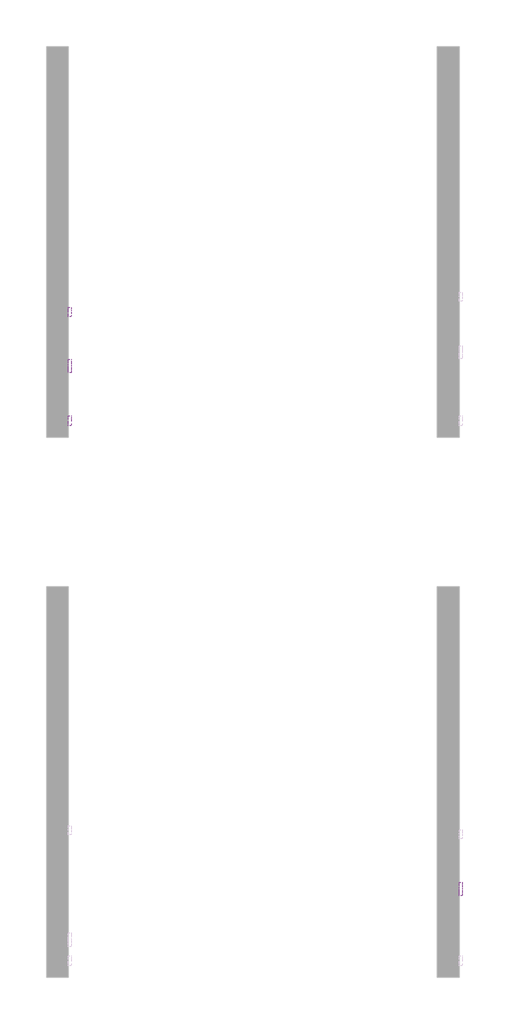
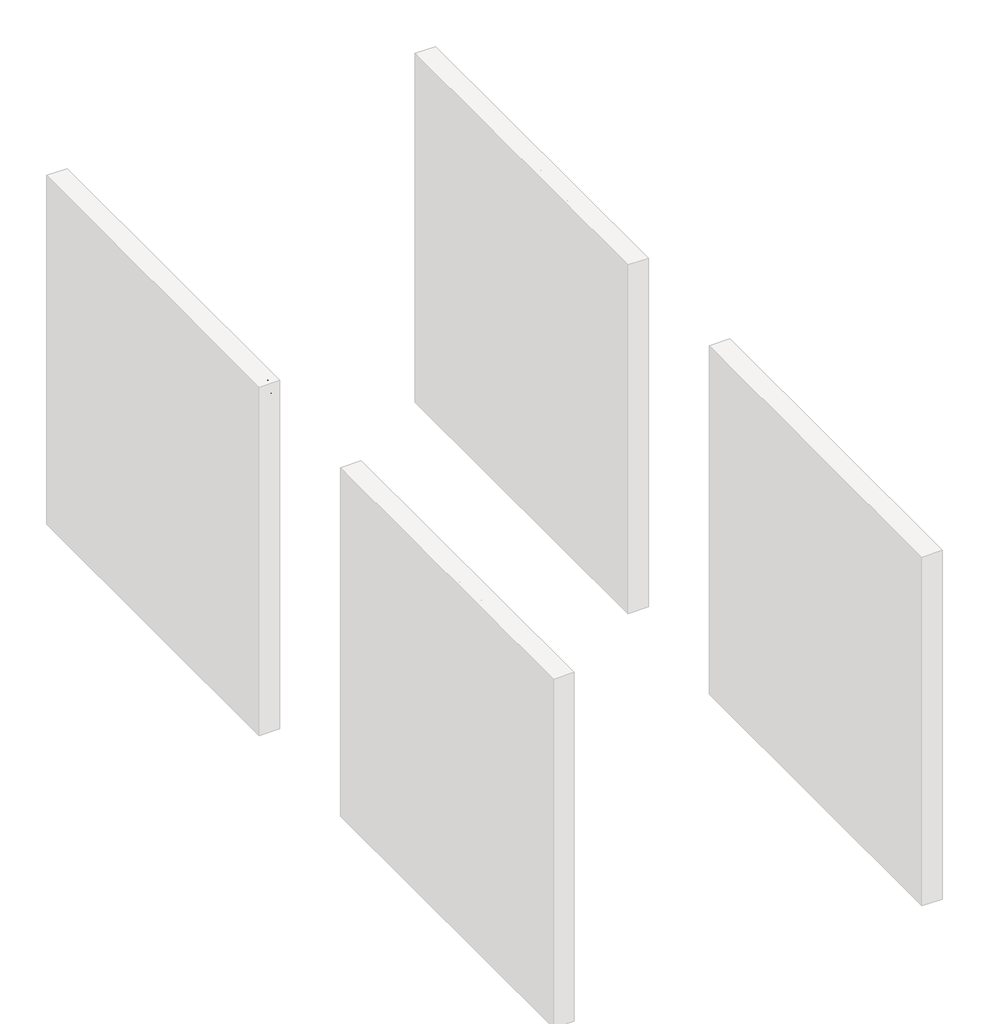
# One storey, part 4 of 17: 4 proxies.
"""IFC4 building model written with IfcOpenShell, lengths in millimetres."""

import ifcopenshell
import ifcopenshell.guid

model = None  # the IFC model being written
_history = None  # IfcOwnerHistory: only IFC2X3 demands one
_inside = {}  # id of a spatial element -> (the spatial element, [elements in it])
_under = {}  # id of a project, library or spatial element -> (it, [spatial elements below it])
_declared = {}  # id of a project -> (the project, [libraries it declares])
_typed = {}  # id of a type object -> (the type object, [elements of that type])
_made_of = {}  # id of a material, layer set ... -> (it, [elements and type objects made of it])


def new_model(schema):
    """Start an empty IFC model of exactly this schema.

    Asked for "IFC4X3", IfcOpenShell would pick the latest addendum, in which some entities
    have other attributes; the version numbers below select the first issue.
    IFC2X3 requires an IfcOwnerHistory on every rooted entity: one is made here for all.
    """
    global model, _history
    if schema == "IFC4X3":
        model = ifcopenshell.file(schema_version=(4, 3, 0, 0))
    else:
        model = ifcopenshell.file(schema=schema)
    _inside.clear()
    _under.clear()
    _declared.clear()
    _typed.clear()
    _made_of.clear()
    _history = None
    if model.schema == "IFC2X3":
        org = make("IfcOrganization", Name="unknown")
        user = make(
            "IfcPersonAndOrganization",
            ThePerson=make("IfcPerson", FamilyName="unknown"),
            TheOrganization=org,
        )
        app = make(
            "IfcApplication",
            ApplicationDeveloper=org,
            Version="unknown",
            ApplicationFullName="unknown",
            ApplicationIdentifier="unknown",
        )
        _history = make(
            "IfcOwnerHistory",
            OwningUser=user,
            OwningApplication=app,
            ChangeAction="ADDED",
            CreationDate=0,
        )
    return model


def make(cls, **values):
    """One entity of the class cls with the attributes given. An attribute that is None is left unset."""
    return model.create_entity(
        cls, **{name: value for name, value in values.items() if value is not None}
    )


def rooted(cls, **values):
    """An entity with a GlobalId (a new one), such as an element, a storey or a relation."""
    return make(cls, GlobalId=ifcopenshell.guid.new(), OwnerHistory=_history, **values)


def si_unit(unit_type, name, prefix=None):
    """IfcSIUnit, for example si_unit("LENGTHUNIT", "METRE", prefix="MILLI")."""
    return make("IfcSIUnit", UnitType=unit_type, Prefix=prefix, Name=name)


def assignment(units):
    """IfcUnitAssignment: the units of a project."""
    return None if units is None else make("IfcUnitAssignment", Units=units)


def point(xyz):
    """IfcCartesianPoint."""
    return None if xyz is None else make("IfcCartesianPoint", Coordinates=xyz)


def direction(xyz):
    """IfcDirection."""
    return None if xyz is None else make("IfcDirection", DirectionRatios=xyz)


def frame(location, z_axis=None, x_axis=None):
    """IfcAxis2Placement3D, a coordinate frame: its origin and axes. An axis left out is left unset."""
    return make(
        "IfcAxis2Placement3D",
        Location=point(location),
        Axis=direction(z_axis),
        RefDirection=direction(x_axis),
    )


def origin():
    """The frame at (0, 0, 0) with its axes left unset."""
    return frame((0.0, 0.0, 0.0))


def place(relative_to, where):
    """IfcLocalPlacement: puts the frame where relative to a parent placement (None: the world)."""
    return make(
        "IfcLocalPlacement", PlacementRelTo=relative_to, RelativePlacement=where
    )


def context(
    kind, dimensions, precision=None, world=None, true_north=None, identifier=None
):
    """IfcGeometricRepresentationContext, for example the 3D "Model" context."""
    return make(
        "IfcGeometricRepresentationContext",
        ContextIdentifier=identifier,
        ContextType=kind,
        CoordinateSpaceDimension=dimensions,
        Precision=precision,
        WorldCoordinateSystem=world,
        TrueNorth=true_north,
    )


def project(units=None, contexts=None):
    """IfcProject with its units and contexts."""
    return rooted(
        "IfcProject",
        Name="project",
        RepresentationContexts=contexts,
        UnitsInContext=assignment(units),
    )


def spatial(cls, under=None, at=None, **own):
    """A site, building, storey or space (cls), placed at a placement, below another one or the project."""
    s = rooted(cls, ObjectPlacement=at, **own)
    if under is not None:
        _under.setdefault(under.id(), (under, []))[1].append(s)
    return s


def polyline(points):
    """IfcPolyline through the points."""
    return make("IfcPolyline", Points=[point(p) for p in points])


def outline(outer, holes=None, kind="AREA"):
    """IfcArbitraryClosedProfileDef: a profile drawn as a closed curve; with holes, ...WithVoids."""
    if holes is None:
        return make("IfcArbitraryClosedProfileDef", ProfileType=kind, OuterCurve=outer)
    return make(
        "IfcArbitraryProfileDefWithVoids",
        ProfileType=kind,
        OuterCurve=outer,
        InnerCurves=holes,
    )


def extrude(swept, where, along, depth):
    """IfcExtrudedAreaSolid: the profile swept, set in the frame where, extruded along a direction by depth."""
    return make(
        "IfcExtrudedAreaSolid",
        SweptArea=swept,
        Position=where,
        ExtrudedDirection=direction(along),
        Depth=depth,
    )


def shape(context_of_items, identifier, shape_type, items):
    """IfcShapeRepresentation: the items that make up one representation, for example the "Body"."""
    return make(
        "IfcShapeRepresentation",
        ContextOfItems=context_of_items,
        RepresentationIdentifier=identifier,
        RepresentationType=shape_type,
        Items=items,
    )


def made_of(thing, what):
    """Note that an element or type object is made of a material, layer set ...; save() writes the relation."""
    if what is not None:
        _made_of.setdefault(what.id(), (what, []))[1].append(thing)
    return thing


def element(
    cls,
    number,
    at=None,
    inside=None,
    cuts=None,
    type_object=None,
    material=None,
    context=None,
    identifier="Body",
    shape_type=None,
    held_by="IfcProductDefinitionShape",
    body=None,
    shapes=None,
    **own,
):
    """One element of the class cls, such as IfcWall. Its Tag is "e" and its number.

    at: its placement. inside: the storey or other place that contains it. cuts: it is an
    opening in that element (IfcRelVoidsElement). A single representation is given by context,
    identifier, shape_type and body (its items); several are given by shapes. held_by: the class
    of the entity that holds the representations. save() writes the other relations.
    """
    e = rooted(cls, Tag="e%d" % number, ObjectPlacement=at, **own)
    if body is not None:
        shapes = [shape(context, identifier, shape_type, body)]
    if shapes is not None:
        e.Representation = make(held_by, Representations=shapes)
    if inside is not None:
        _inside.setdefault(inside.id(), (inside, []))[1].append(e)
    if cuts is not None:
        rooted(
            "IfcRelVoidsElement", RelatingBuildingElement=cuts, RelatedOpeningElement=e
        )
    if type_object is not None:
        _typed.setdefault(type_object.id(), (type_object, []))[1].append(e)
    return made_of(e, material)


def aggregate(whole, parts):
    """IfcRelAggregates: a whole, such as a stair, and the parts it consists of."""
    return rooted("IfcRelAggregates", RelatingObject=whole, RelatedObjects=parts)


def save(model, path):
    """Write the relations noted so far, then the file.

    IfcRelAggregates (storeys below a building ...), IfcRelContainedInSpatialStructure (elements
    in a storey), IfcRelDefinesByType, IfcRelAssociatesMaterial and IfcRelDeclares: one each for
    every whole, place, type object, material and project.
    """
    for whole, parts in _under.values():
        aggregate(whole, parts)
    for where, things in _inside.values():
        rooted(
            "IfcRelContainedInSpatialStructure",
            RelatedElements=things,
            RelatingStructure=where,
        )
    for kind, things in _typed.values():
        rooted("IfcRelDefinesByType", RelatedObjects=things, RelatingType=kind)
    for what, things in _made_of.values():
        rooted("IfcRelAssociatesMaterial", RelatedObjects=things, RelatingMaterial=what)
    for by, libraries in _declared.values():
        rooted("IfcRelDeclares", RelatingContext=by, RelatedDefinitions=libraries)
    model.write(path)


model = new_model("IFC4")

# Units and contexts
model_context = context("Model", 3, world=origin())
ifc_project = project(units=[si_unit("LENGTHUNIT", "METRE", prefix="MILLI")], contexts=[model_context])

# Site, building, storey
site = spatial("IfcSite", under=ifc_project)
building = spatial("IfcBuilding", under=site)
storey = spatial("IfcBuildingStorey", under=building, Name="PORTOBELLO - SHOWROOM", Elevation=0.0)

# Proxies
placement = place(None, origin())
element("IfcBuildingElementProxy", 1, Name="10mm Arial", ObjectType="10mm Arial", at=placement, inside=storey, context=model_context, shape_type="SweptSolid", body=[
    extrude(outline(polyline([(-7644.9270675, 2518.4745677), (-7644.9270675, 2618.9308778), (-7606.5937636, 2618.9308778), (-7587.8195191, 2615.9755591), (-7576.7340083, 2606.8888738), (-7572.7240946, 2594.0375295), (-7576.0963462, 2582.3020938), (-7586.2866775, 2573.4116123), (-7573.9135797, 2564.0428841), (-7569.5848349, 2548.4201621), (-7572.5401536, 2534.9188928), (-7579.8610053, 2525.30491), (-7590.7871006, 2520.203613), (-7606.8880692, 2518.4745677), (-7644.9270675, 2518.4745677)]), holes=[polyline([(-7632.3700287, 2578.1205018), (-7609.4387177, 2578.1205018), (-7596.0478131, 2579.1996223), (-7587.9911974, 2583.8471982), (-7585.2811334, 2592.0264412), (-7587.8072564, 2600.217947), (-7595.042269, 2605.0617266), (-7611.1800258, 2606.373839), (-7632.3700287, 2606.373839), (-7632.3700287, 2578.1205018)]), polyline([(-7632.3700287, 2531.0316064), (-7606.6182891, 2531.0316064), (-7597.2986119, 2531.5221158), (-7589.4136744, 2534.2567053), (-7584.1897501, 2539.8362488), (-7582.1418737, 2548.2975347), (-7584.5453694, 2558.0586703), (-7592.3322049, 2563.8834686), (-7607.8445624, 2565.563463), (-7632.3700287, 2565.563463), (-7632.3700287, 2531.0316064)])]), frame((-7622.2794626, 0.0, 0.0), z_axis=(1.0, 0.0, 0.0), x_axis=(0.0, 1.0, 0.0)), (0.0, 0.0, 1.0), 20.0),
    extrude(outline(polyline([(-7553.8885364, 2518.4745677), (-7553.8885364, 2592.2471704), (-7542.9011275, 2592.2471704), (-7542.9011275, 2581.3333379), (-7535.1020292, 2591.3887791), (-7527.25388, 2593.8168003), (-7514.6477903, 2589.9417766), (-7518.841645, 2578.6845875), (-7527.6708129, 2581.2597615), (-7534.7709354, 2578.7826894), (-7539.295884, 2571.9155588), (-7541.3314977, 2557.24933), (-7541.3314977, 2518.4745677), (-7553.8885364, 2518.4745677)])), frame((-7622.2794626, 0.0, 0.0), z_axis=(1.0, 0.0, 0.0), x_axis=(0.0, 1.0, 0.0)), (0.0, 0.0, 1.0), 20.0),
    extrude(outline(polyline([(-7459.7107457, 2527.8923467), (-7471.8876397, 2519.3820099), (-7485.339858, 2516.9049378), (-7495.8336919, 2518.3948599), (-7503.5745422, 2522.8646261), (-7508.3478111, 2529.6520489), (-7509.9389008, 2538.0949407), (-7507.5354051, 2548.0277546), (-7501.2200975, 2555.2382417), (-7492.4277178, 2559.3585201), (-7481.5629362, 2561.246981), (-7459.7843221, 2565.563463), (-7459.7107457, 2568.3593662), (-7463.1688364, 2577.6299925), (-7477.0502504, 2581.2597615), (-7489.754442, 2578.8440031), (-7495.8122321, 2570.2723526), (-7508.3692709, 2571.8419824), (-7502.9368801, 2584.1047156), (-7491.9985221, 2591.2906772), (-7475.4315696, 2593.8168003), (-7460.2135177, 2591.5849828), (-7451.6173418, 2585.9809138), (-7447.7668436, 2577.4583142), (-7447.1537069, 2566.4709053), (-7447.1537069, 2550.8481832), (-7446.5160448, 2529.0327809), (-7444.0144472, 2518.4745677), (-7456.571486, 2518.4745677), (-7459.7107457, 2527.8923467)]), holes=[polyline([(-7459.7107457, 2553.0064243), (-7479.9687809, 2549.1559261), (-7490.7722488, 2547.1203124), (-7495.6650793, 2543.8093744), (-7497.381862, 2538.9778575), (-7493.6417284, 2532.1843033), (-7482.6665822, 2529.4619766), (-7469.9623906, 2532.4663462), (-7461.7708849, 2539.738147), (-7459.7843221, 2549.4502317), (-7459.7107457, 2553.0064243)])]), frame((-7622.2794626, 0.0, 0.0), z_axis=(1.0, 0.0, 0.0), x_axis=(0.0, 1.0, 0.0)), (0.0, 0.0, 1.0), 20.0),
    extrude(outline(polyline([(-7429.8877786, 2518.4745677), (-7429.8877786, 2592.2471704), (-7417.3307398, 2592.2471704), (-7417.3307398, 2581.9464746), (-7407.7290198, 2590.8492188), (-7394.620158, 2593.8168003), (-7382.762095, 2591.4255673), (-7374.6686911, 2585.1470479), (-7370.904032, 2575.9132098), (-7370.2418445, 2563.773104), (-7370.2418445, 2518.4745677), (-7382.7988832, 2518.4745677), (-7382.7988832, 2562.0808468), (-7384.2458857, 2573.1908831), (-7389.3594455, 2579.0647323), (-7397.9801469, 2581.2597615), (-7411.6040434, 2576.3301428), (-7415.8990657, 2569.1871007), (-7417.3307398, 2557.6172119), (-7417.3307398, 2518.4745677), (-7429.8877786, 2518.4745677)])), frame((-7622.2794626, 0.0, 0.0), z_axis=(1.0, 0.0, 0.0), x_axis=(0.0, 1.0, 0.0)), (0.0, 0.0, 1.0), 20.0),
    extrude(outline(polyline([(-7305.8870208, 2545.158275), (-7293.329982, 2543.5886452), (-7296.8309923, 2532.420361), (-7303.4099487, 2523.9805349), (-7312.447583, 2518.6738371), (-7323.3246273, 2516.9049378), (-7336.6818094, 2519.3728129), (-7347.1265924, 2526.776438), (-7353.86803, 2538.7908508), (-7356.1151758, 2555.0910889), (-7352.2769404, 2575.949998), (-7340.5782929, 2589.3531654), (-7323.4963056, 2593.8168003), (-7312.8859757, 2592.2839586), (-7304.40323, 2587.6854337), (-7298.3178487, 2580.2664801), (-7294.8996118, 2570.2723526), (-7307.4566506, 2568.7027227), (-7313.2814489, 2578.1082391), (-7323.3982037, 2581.2597615), (-7331.5130674, 2579.7085258), (-7337.954068, 2575.0548185), (-7342.1571198, 2567.0472538), (-7343.5581371, 2555.4344454), (-7342.1877766, 2543.6652873), (-7338.0766953, 2535.6301314), (-7331.7521907, 2531.0040153), (-7323.7415603, 2529.4619766), (-7311.9080227, 2533.3124748), (-7305.8870208, 2545.158275)])), frame((-7622.2794626, 0.0, 0.0), z_axis=(1.0, 0.0, 0.0), x_axis=(0.0, 1.0, 0.0)), (0.0, 0.0, 1.0), 20.0),
    extrude(outline(polyline([(-7285.4818328, 2555.360869), (-7282.7656374, 2573.1479635), (-7274.6170512, 2585.64982), (-7264.5493472, 2591.7750552), (-7252.4950805, 2593.8168003), (-7239.3034453, 2591.3305311), (-7228.7666918, 2583.8717237), (-7221.8597074, 2572.0289891), (-7219.5573792, 2556.3909386), (-7223.6286066, 2534.0482388), (-7235.4866696, 2521.4053609), (-7252.4950805, 2516.9049378), (-7265.8461313, 2519.3820099), (-7276.370622, 2526.8132262), (-7283.2040301, 2538.9042811), (-7285.4818328, 2555.360869)]), holes=[polyline([(-7272.924794, 2555.3853945), (-7271.4716601, 2544.0209065), (-7267.1122585, 2535.924437), (-7260.5516962, 2531.0775917), (-7252.4950805, 2529.4619766), (-7244.475253, 2531.0867887), (-7237.9269535, 2535.9612252), (-7233.5675519, 2544.1649937), (-7232.114418, 2555.777802), (-7233.5767489, 2566.8111961), (-7237.9637417, 2574.7973011), (-7244.5212383, 2579.6441464), (-7252.4950805, 2581.2597615), (-7260.5516962, 2579.6502778), (-7267.1122585, 2574.8218266), (-7271.4716601, 2566.7437511), (-7272.924794, 2555.3853945)])]), frame((-7622.2794626, 0.0, 0.0), z_axis=(1.0, 0.0, 0.0), x_axis=(0.0, 1.0, 0.0)), (0.0, 0.0, 1.0), 20.0),
    extrude(outline(polyline([(-7117.5314392, 2557.7153138), (-7117.5314392, 2570.2723526), (-7076.7210632, 2570.2723526), (-7076.7210632, 2532.7238636), (-7096.8687338, 2520.8780634), (-7118.1691014, 2516.9049378), (-7132.2559161, 2518.4837647), (-7144.9876988, 2523.2202454), (-7155.5643062, 2530.948833), (-7163.1855948, 2541.5039806), (-7167.7933168, 2554.1652526), (-7169.3292242, 2568.2122134), (-7167.7994482, 2582.3603418), (-7163.2101203, 2595.5213202), (-7155.7513128, 2606.5608457), (-7145.6130982, 2614.3446156), (-7133.2645259, 2618.9615346), (-7119.1746455, 2620.5005077), (-7099.5297469, 2616.9320523), (-7085.7586976, 2606.9992384), (-7078.1680657, 2590.383235), (-7089.7440859, 2587.121348), (-7095.4707823, 2598.7341563), (-7105.2564433, 2605.4296086), (-7119.3708492, 2607.9434689), (-7135.4472924, 2605.2334049), (-7146.3856504, 2598.1210196), (-7152.8481108, 2588.4457231), (-7156.7721854, 2568.7272482), (-7152.0510331, 2546.8382695), (-7138.316772, 2533.7416705), (-7119.1746455, 2529.4619766), (-7101.9945563, 2532.6870754), (-7089.278102, 2539.5664687), (-7089.278102, 2557.7153138), (-7117.5314392, 2557.7153138)])), frame((-7622.2794626, 0.0, 0.0), z_axis=(1.0, 0.0, 0.0), x_axis=(0.0, 1.0, 0.0)), (0.0, 0.0, 1.0), 20.0),
    extrude(outline(polyline([(-7057.8855051, 2518.4745677), (-7057.8855051, 2592.2471704), (-7046.8980962, 2592.2471704), (-7046.8980962, 2581.3333379), (-7039.0989979, 2591.3887791), (-7031.2508486, 2593.8168003), (-7018.6447589, 2589.9417766), (-7022.8386137, 2578.6845875), (-7031.6677816, 2581.2597615), (-7038.7679041, 2578.7826894), (-7043.2928526, 2571.9155588), (-7045.3284663, 2557.24933), (-7045.3284663, 2518.4745677), (-7057.8855051, 2518.4745677)])), frame((-7622.2794626, 0.0, 0.0), z_axis=(1.0, 0.0, 0.0), x_axis=(0.0, 1.0, 0.0)), (0.0, 0.0, 1.0), 20.0),
    extrude(outline(polyline([(-6963.7077143, 2527.8923467), (-6975.8846084, 2519.3820099), (-6989.3368266, 2516.9049378), (-6999.8306606, 2518.3948599), (-7007.5715109, 2522.8646261), (-7012.3447798, 2529.6520489), (-7013.9358694, 2538.0949407), (-7011.5323737, 2548.0277546), (-7005.2170661, 2555.2382417), (-6996.4246864, 2559.3585201), (-6985.5599048, 2561.246981), (-6963.7812907, 2565.563463), (-6963.7077143, 2568.3593662), (-6967.1658051, 2577.6299925), (-6981.047219, 2581.2597615), (-6993.7514106, 2578.8440031), (-6999.8092008, 2570.2723526), (-7012.3662395, 2571.8419824), (-7006.9338487, 2584.1047156), (-6995.9954908, 2591.2906772), (-6979.4285382, 2593.8168003), (-6964.2104864, 2591.5849828), (-6955.6143104, 2585.9809138), (-6951.7638122, 2577.4583142), (-6951.1506755, 2566.4709053), (-6951.1506755, 2550.8481832), (-6950.5130134, 2529.0327809), (-6948.0114159, 2518.4745677), (-6960.5684546, 2518.4745677), (-6963.7077143, 2527.8923467)]), holes=[polyline([(-6963.7077143, 2553.0064243), (-6983.9657495, 2549.1559261), (-6994.7692174, 2547.1203124), (-6999.662048, 2543.8093744), (-7001.3788306, 2538.9778575), (-6997.638697, 2532.1843033), (-6986.6635508, 2529.4619766), (-6973.9593592, 2532.4663462), (-6965.7678535, 2539.738147), (-6963.7812907, 2549.4502317), (-6963.7077143, 2553.0064243)])]), frame((-7622.2794626, 0.0, 0.0), z_axis=(1.0, 0.0, 0.0), x_axis=(0.0, 1.0, 0.0)), (0.0, 0.0, 1.0), 20.0),
    extrude(outline(polyline([(-6889.9351115, 2518.4745677), (-6889.9351115, 2579.6901317), (-6900.9225205, 2579.6901317), (-6900.9225205, 2592.2471704), (-6889.9351115, 2592.2471704), (-6889.9351115, 2599.6783867), (-6888.6107364, 2610.1507609), (-6882.1850642, 2617.6310281), (-6869.5299235, 2620.5005077), (-6858.0765308, 2619.1270815), (-6859.9159407, 2607.3548577), (-6867.1509533, 2607.9434689), (-6875.0604162, 2605.8588043), (-6877.3780728, 2598.0842314), (-6877.3780728, 2592.2471704), (-6863.2514042, 2592.2471704), (-6863.2514042, 2579.6901317), (-6877.3780728, 2579.6901317), (-6877.3780728, 2518.4745677), (-6889.9351115, 2518.4745677)])), frame((-7622.2794626, 0.0, 0.0), z_axis=(1.0, 0.0, 0.0), x_axis=(0.0, 1.0, 0.0)), (0.0, 0.0, 1.0), 20.0),
    extrude(outline(polyline([(-6930.7454875, 2518.4745677), (-6930.7454875, 2579.6901317), (-6941.7328965, 2579.6901317), (-6941.7328965, 2592.2471704), (-6930.7454875, 2592.2471704), (-6930.7454875, 2599.6783867), (-6929.4211124, 2610.1507609), (-6922.9954402, 2617.6310281), (-6910.3402995, 2620.5005077), (-6898.8869068, 2619.1270815), (-6900.7263167, 2607.3548577), (-6907.9613293, 2607.9434689), (-6915.8707922, 2605.8588043), (-6918.1884488, 2598.0842314), (-6918.1884488, 2592.2471704), (-6904.0617802, 2592.2471704), (-6904.0617802, 2579.6901317), (-6918.1884488, 2579.6901317), (-6918.1884488, 2518.4745677), (-6930.7454875, 2518.4745677)])), frame((-7622.2794626, 0.0, 0.0), z_axis=(1.0, 0.0, 0.0), x_axis=(0.0, 1.0, 0.0)), (0.0, 0.0, 1.0), 20.0),
    extrude(outline(polyline([(-7602.2794626, -6839.7069565), (-7602.2794626, -6852.2639952), (-7622.2794626, -6852.2639952), (-7622.2794626, -6839.7069565), (-7602.2794626, -6839.7069565)])), frame((0.0, 0.0, 2606.373839), z_axis=(0.0, 0.0, 1.0), x_axis=(1.0, 0.0, 0.0)), (0.0, 0.0, 1.0), 12.5570388),
    extrude(outline(polyline([(-7602.2794626, -6839.7069565), (-7602.2794626, -6852.2639952), (-7622.2794626, -6852.2639952), (-7622.2794626, -6839.7069565), (-7602.2794626, -6839.7069565)])), frame((0.0, 0.0, 2518.4745677), z_axis=(0.0, 0.0, 1.0), x_axis=(1.0, 0.0, 0.0)), (0.0, 0.0, 1.0), 73.7726028),
])
element("IfcBuildingElementProxy", 2, Name="10mm Arial", ObjectType="10mm Arial", at=placement, inside=storey, context=model_context, shape_type="SweptSolid", body=[
    extrude(outline(polyline([(-3919.6359571, 2553.0064243), (-3907.0789183, 2553.0064243), (-3903.0322163, 2540.4371228), (-3893.1484534, 2532.4908717), (-3878.0898171, 2529.4619766), (-3864.9686926, 2531.7551077), (-3856.4951439, 2538.0581525), (-3853.7115035, 2546.4826502), (-3855.7961682, 2554.3185367), (-3864.3310304, 2560.0207077), (-3882.6147656, 2564.8154363), (-3902.2964523, 2571.0081166), (-3912.9772929, 2580.3523193), (-3916.4966974, 2592.8357816), (-3912.1434271, 2607.0482894), (-3899.4269728, 2617.0792051), (-3880.8121438, 2620.5005077), (-3860.9465161, 2616.9197896), (-3847.7027643, 2606.3983645), (-3842.7240946, 2590.6775406), (-3855.2811334, 2590.6775406), (-3857.5865272, 2598.1700706), (-3862.3935186, 2603.5779359), (-3880.3216345, 2607.9434689), (-3898.2988013, 2603.6269868), (-3903.9396586, 2593.2036636), (-3899.9420076, 2584.4971231), (-3879.4387177, 2577.4828397), (-3857.2186452, 2571.1797948), (-3845.0662766, 2561.0017263), (-3841.1544648, 2546.8014813), (-3845.6548878, 2531.7796332), (-3858.6043341, 2520.8167497), (-3877.5993077, 2516.9049378), (-3900.0278467, 2521.123318), (-3914.215829, 2533.8275096), (-3919.6359571, 2553.0064243)])), frame((-10322.2794626, 0.0, 0.0), z_axis=(1.0, 0.0, 0.0), x_axis=(0.0, 1.0, 0.0)), (0.0, 0.0, 1.0), 20.0),
    extrude(outline(polyline([(-3776.7996411, 2527.8923467), (-3788.9765351, 2519.3820099), (-3802.4287534, 2516.9049378), (-3812.9225873, 2518.3948599), (-3820.6634376, 2522.8646261), (-3825.4367065, 2529.6520489), (-3827.0277961, 2538.0949407), (-3824.6243004, 2548.0277546), (-3818.3089928, 2555.2382417), (-3809.5166132, 2559.3585201), (-3798.6518316, 2561.246981), (-3776.8732175, 2565.563463), (-3776.7996411, 2568.3593662), (-3780.2577318, 2577.6299925), (-3794.1391458, 2581.2597615), (-3806.8433373, 2578.8440031), (-3812.9011275, 2570.2723526), (-3825.4581663, 2571.8419824), (-3820.0257755, 2584.1047156), (-3809.0874175, 2591.2906772), (-3792.520465, 2593.8168003), (-3777.3024131, 2591.5849828), (-3768.7062372, 2585.9809138), (-3764.855739, 2577.4583142), (-3764.2426023, 2566.4709053), (-3764.2426023, 2550.8481832), (-3763.6049402, 2529.0327809), (-3761.1033426, 2518.4745677), (-3773.6603814, 2518.4745677), (-3776.7996411, 2527.8923467)]), holes=[polyline([(-3776.7996411, 2553.0064243), (-3797.0576763, 2549.1559261), (-3807.8611442, 2547.1203124), (-3812.7539747, 2543.8093744), (-3814.4707574, 2538.9778575), (-3810.7306237, 2532.1843033), (-3799.7554776, 2529.4619766), (-3787.051286, 2532.4663462), (-3778.8597802, 2539.738147), (-3776.8732175, 2549.4502317), (-3776.7996411, 2553.0064243)])]), frame((-10322.2794626, 0.0, 0.0), z_axis=(1.0, 0.0, 0.0), x_axis=(0.0, 1.0, 0.0)), (0.0, 0.0, 1.0), 20.0),
    extrude(outline(polyline([(-3750.1159337, 2512.1960483), (-3737.5588949, 2510.6264184), (-3733.4876675, 2504.0045425), (-3721.2985107, 2501.2086394), (-3708.4471664, 2504.3724245), (-3702.3157998, 2513.2506433), (-3701.4574084, 2527.8923467), (-3710.2988391, 2520.8290124), (-3721.0777815, 2518.4745677), (-3734.0241621, 2521.2152885), (-3743.6779988, 2529.4374511), (-3749.6836723, 2541.4917178), (-3751.6855635, 2555.728751), (-3748.0925827, 2575.1897086), (-3737.693785, 2588.9607579), (-3721.6909182, 2593.8168003), (-3710.4889114, 2591.069948), (-3701.4574084, 2582.8293914), (-3701.4574084, 2592.2471704), (-3688.9003697, 2592.2471704), (-3688.9003697, 2528.5545343), (-3692.333935, 2504.1639581), (-3703.2109793, 2492.8209299), (-3721.5437654, 2488.6516006), (-3733.2270844, 2490.1200629), (-3742.4272, 2494.5254498), (-3748.3286403, 2501.880024), (-3750.1159337, 2512.1960483)]), holes=[polyline([(-3739.1285248, 2556.5871424), (-3737.7888212, 2545.0693702), (-3733.7697104, 2537.1507103), (-3727.7272486, 2532.5613824), (-3720.3174921, 2531.0316064), (-3712.9629178, 2532.5521853), (-3706.8897992, 2537.1139221), (-3702.8155061, 2544.9314145), (-3701.4574084, 2556.2192604), (-3702.85536, 2567.1055017), (-3707.0492148, 2574.9444539), (-3713.2112382, 2579.6809346), (-3720.5136958, 2581.2597615), (-3727.684329, 2579.7054601), (-3733.696134, 2575.0425558), (-3737.7704271, 2567.3200996), (-3739.1285248, 2556.5871424)])]), frame((-10322.2794626, 0.0, 0.0), z_axis=(1.0, 0.0, 0.0), x_axis=(0.0, 1.0, 0.0)), (0.0, 0.0, 1.0), 20.0),
    extrude(outline(polyline([(-3618.4141794, 2540.4493855), (-3606.1023953, 2538.8797557), (-3610.538439, 2529.602998), (-3617.6171017, 2522.6684224), (-3627.1789679, 2518.345809), (-3639.0646221, 2516.9049378), (-3653.798296, 2519.391207), (-3665.1351928, 2526.8500144), (-3672.364074, 2538.7969822), (-3674.7737011, 2554.7477324), (-3672.3395485, 2571.2349771), (-3665.0370909, 2583.5651553), (-3653.8534783, 2591.253889), (-3639.7758606, 2593.8168003), (-3626.1366356, 2591.2600204), (-3615.2381315, 2583.5896808), (-3608.0920238, 2571.2840281), (-3605.7099878, 2554.8213088), (-3605.7835642, 2551.4367944), (-3662.2166623, 2551.4367944), (-3660.0430928, 2542.0374095), (-3654.9939125, 2535.1273593), (-3647.7067833, 2530.8783223), (-3638.8193674, 2529.4619766), (-3626.5075833, 2532.0862015), (-3618.4141794, 2540.4493855)]), holes=[polyline([(-3662.2166623, 2563.9938332), (-3618.2670266, 2563.9938332), (-3623.2947472, 2575.3736496), (-3630.6155989, 2579.7882335), (-3639.8249115, 2581.2597615), (-3655.2882181, 2576.5631347), (-3660.1534574, 2571.0724959), (-3662.2166623, 2563.9938332)])]), frame((-10322.2794626, 0.0, 0.0), z_axis=(1.0, 0.0, 0.0), x_axis=(0.0, 1.0, 0.0)), (0.0, 0.0, 1.0), 20.0),
    extrude(outline(polyline([(-3505.2536777, 2557.7153138), (-3505.2536777, 2570.2723526), (-3464.4433017, 2570.2723526), (-3464.4433017, 2532.7238636), (-3484.5909723, 2520.8780634), (-3505.8913398, 2516.9049378), (-3519.9781545, 2518.4837647), (-3532.7099373, 2523.2202454), (-3543.2865446, 2530.948833), (-3550.9078333, 2541.5039806), (-3555.5155553, 2554.1652526), (-3557.0514626, 2568.2122134), (-3555.5216866, 2582.3603418), (-3550.9323588, 2595.5213202), (-3543.4735513, 2606.5608457), (-3533.3353367, 2614.3446156), (-3520.9867643, 2618.9615346), (-3506.8968839, 2620.5005077), (-3487.2519854, 2616.9320523), (-3473.480936, 2606.9992384), (-3465.8903042, 2590.383235), (-3477.4663243, 2587.121348), (-3483.1930207, 2598.7341563), (-3492.9786818, 2605.4296086), (-3507.0930877, 2607.9434689), (-3523.1695309, 2605.2334049), (-3534.1078888, 2598.1210196), (-3540.5703492, 2588.4457231), (-3544.4944238, 2568.7272482), (-3539.7732716, 2546.8382695), (-3526.0390104, 2533.7416705), (-3506.8968839, 2529.4619766), (-3489.7167948, 2532.6870754), (-3477.0003405, 2539.5664687), (-3477.0003405, 2557.7153138), (-3505.2536777, 2557.7153138)])), frame((-10322.2794626, 0.0, 0.0), z_axis=(1.0, 0.0, 0.0), x_axis=(0.0, 1.0, 0.0)), (0.0, 0.0, 1.0), 20.0),
    extrude(outline(polyline([(-3445.6077435, 2518.4745677), (-3445.6077435, 2592.2471704), (-3434.6203346, 2592.2471704), (-3434.6203346, 2581.3333379), (-3426.8212363, 2591.3887791), (-3418.9730871, 2593.8168003), (-3406.3669974, 2589.9417766), (-3410.5608521, 2578.6845875), (-3419.39002, 2581.2597615), (-3426.4901425, 2578.7826894), (-3431.0150911, 2571.9155588), (-3433.0507048, 2557.24933), (-3433.0507048, 2518.4745677), (-3445.6077435, 2518.4745677)])), frame((-10322.2794626, 0.0, 0.0), z_axis=(1.0, 0.0, 0.0), x_axis=(0.0, 1.0, 0.0)), (0.0, 0.0, 1.0), 20.0),
    extrude(outline(polyline([(-3351.4299528, 2527.8923467), (-3363.6068468, 2519.3820099), (-3377.0590651, 2516.9049378), (-3387.552899, 2518.3948599), (-3395.2937493, 2522.8646261), (-3400.0670182, 2529.6520489), (-3401.6581078, 2538.0949407), (-3399.2546121, 2548.0277546), (-3392.9393046, 2555.2382417), (-3384.1469249, 2559.3585201), (-3373.2821433, 2561.246981), (-3351.5035292, 2565.563463), (-3351.4299528, 2568.3593662), (-3354.8880435, 2577.6299925), (-3368.7694575, 2581.2597615), (-3381.473649, 2578.8440031), (-3387.5314392, 2570.2723526), (-3400.088478, 2571.8419824), (-3394.6560872, 2584.1047156), (-3383.7177292, 2591.2906772), (-3367.1507767, 2593.8168003), (-3351.9327248, 2591.5849828), (-3343.3365489, 2585.9809138), (-3339.4860507, 2577.4583142), (-3338.872914, 2566.4709053), (-3338.872914, 2550.8481832), (-3338.2352519, 2529.0327809), (-3335.7336543, 2518.4745677), (-3348.2906931, 2518.4745677), (-3351.4299528, 2527.8923467)]), holes=[polyline([(-3351.4299528, 2553.0064243), (-3371.687988, 2549.1559261), (-3382.4914559, 2547.1203124), (-3387.3842864, 2543.8093744), (-3389.1010691, 2538.9778575), (-3385.3609355, 2532.1843033), (-3374.3857893, 2529.4619766), (-3361.6815977, 2532.4663462), (-3353.4900919, 2539.738147), (-3351.5035292, 2549.4502317), (-3351.4299528, 2553.0064243)])]), frame((-10322.2794626, 0.0, 0.0), z_axis=(1.0, 0.0, 0.0), x_axis=(0.0, 1.0, 0.0)), (0.0, 0.0, 1.0), 20.0),
    extrude(outline(polyline([(-3277.65735, 2518.4745677), (-3277.65735, 2579.6901317), (-3288.6447589, 2579.6901317), (-3288.6447589, 2592.2471704), (-3277.65735, 2592.2471704), (-3277.65735, 2599.6783867), (-3276.3329748, 2610.1507609), (-3269.9073026, 2617.6310281), (-3257.252162, 2620.5005077), (-3245.7987692, 2619.1270815), (-3247.6381792, 2607.3548577), (-3254.8731918, 2607.9434689), (-3262.7826547, 2605.8588043), (-3265.1003112, 2598.0842314), (-3265.1003112, 2592.2471704), (-3250.9736426, 2592.2471704), (-3250.9736426, 2579.6901317), (-3265.1003112, 2579.6901317), (-3265.1003112, 2518.4745677), (-3277.65735, 2518.4745677)])), frame((-10322.2794626, 0.0, 0.0), z_axis=(1.0, 0.0, 0.0), x_axis=(0.0, 1.0, 0.0)), (0.0, 0.0, 1.0), 20.0),
    extrude(outline(polyline([(-3318.467726, 2518.4745677), (-3318.467726, 2579.6901317), (-3329.4551349, 2579.6901317), (-3329.4551349, 2592.2471704), (-3318.467726, 2592.2471704), (-3318.467726, 2599.6783867), (-3317.1433508, 2610.1507609), (-3310.7176786, 2617.6310281), (-3298.062538, 2620.5005077), (-3286.6091452, 2619.1270815), (-3288.4485552, 2607.3548577), (-3295.6835678, 2607.9434689), (-3303.5930307, 2605.8588043), (-3305.9106872, 2598.0842314), (-3305.9106872, 2592.2471704), (-3291.7840186, 2592.2471704), (-3291.7840186, 2579.6901317), (-3305.9106872, 2579.6901317), (-3305.9106872, 2518.4745677), (-3318.467726, 2518.4745677)])), frame((-10322.2794626, 0.0, 0.0), z_axis=(1.0, 0.0, 0.0), x_axis=(0.0, 1.0, 0.0)), (0.0, 0.0, 1.0), 20.0),
    extrude(outline(polyline([(-10302.2794626, -3227.4291949), (-10302.2794626, -3239.9862337), (-10322.2794626, -3239.9862337), (-10322.2794626, -3227.4291949), (-10302.2794626, -3227.4291949)])), frame((0.0, 0.0, 2606.373839), z_axis=(0.0, 0.0, 1.0), x_axis=(1.0, 0.0, 0.0)), (0.0, 0.0, 1.0), 12.5570388),
    extrude(outline(polyline([(-10302.2794626, -3227.4291949), (-10302.2794626, -3239.9862337), (-10322.2794626, -3239.9862337), (-10322.2794626, -3227.4291949), (-10302.2794626, -3227.4291949)])), frame((0.0, 0.0, 2518.4745677), z_axis=(0.0, 0.0, 1.0), x_axis=(1.0, 0.0, 0.0)), (0.0, 0.0, 1.0), 73.7726028),
])
element("IfcBuildingElementProxy", 3, Name="10mm Arial", ObjectType="10mm Arial", at=placement, inside=storey, context=model_context, shape_type="SweptSolid", body=[
    extrude(outline(polyline([(-3878.8255811, 2393.4745677), (-3878.8255811, 2417.0190154), (-3924.3448466, 2417.0190154), (-3924.3448466, 2429.5760541), (-3875.6863214, 2492.361248), (-3866.2685423, 2492.361248), (-3866.2685423, 2429.5760541), (-3853.7115035, 2429.5760541), (-3853.7115035, 2417.0190154), (-3866.2685423, 2417.0190154), (-3866.2685423, 2393.4745677), (-3878.8255811, 2393.4745677)]), holes=[polyline([(-3878.8255811, 2429.5760541), (-3878.8255811, 2468.3753419), (-3908.8938028, 2429.5760541), (-3878.8255811, 2429.5760541)])]), frame((-10322.2794626, 0.0, 0.0), z_axis=(1.0, 0.0, 0.0), x_axis=(0.0, 1.0, 0.0)), (0.0, 0.0, 1.0), 20.0),
    extrude(outline(polyline([(-3842.7240946, 2420.158275), (-3830.1670558, 2421.7279049), (-3823.8394855, 2408.7907214), (-3810.718361, 2404.4619766), (-3801.7175149, 2405.9672271), (-3794.9730116, 2410.4829786), (-3790.7607628, 2417.4880649), (-3789.3566798, 2426.4613199), (-3794.6173924, 2441.3728034), (-3801.2239399, 2445.4746877), (-3810.5221573, 2446.8419824), (-3821.5463544, 2444.6592159), (-3828.597426, 2438.9938332), (-3841.1544648, 2440.563463), (-3830.1670558, 2492.361248), (-3781.5085306, 2492.361248), (-3781.5085306, 2479.8042092), (-3820.0135128, 2479.8042092), (-3825.4091154, 2452.1394832), (-3816.438926, 2457.5841367), (-3807.0395411, 2459.3990212), (-3795.3041054, 2457.1488097), (-3785.5552325, 2450.3981751), (-3778.9885389, 2440.1097419), (-3776.7996411, 2427.2461348), (-3778.7678097, 2414.6890961), (-3784.6723158, 2403.9469418), (-3795.9785557, 2394.9154388), (-3810.7674119, 2391.9049378), (-3823.1006558, 2393.839384), (-3832.9261708, 2399.6427224), (-3839.661477, 2408.6405029), (-3842.7240946, 2420.158275)])), frame((-10322.2794626, 0.0, 0.0), z_axis=(1.0, 0.0, 0.0), x_axis=(0.0, 1.0, 0.0)), (0.0, 0.0, 1.0), 20.0),
    extrude(outline(polyline([(-3770.5211217, 2393.4745677), (-3743.6902615, 2430.5815982), (-3768.9514918, 2467.2471704), (-3753.8928555, 2467.2471704), (-3741.7036987, 2449.5643092), (-3735.9892651, 2441.2501761), (-3731.0351209, 2448.0682557), (-3717.1537069, 2467.2471704), (-3702.0460196, 2467.2471704), (-3728.5825742, 2430.5570728), (-3703.0270383, 2393.4745677), (-3718.1102001, 2393.4745677), (-3733.512193, 2415.792742), (-3736.3080961, 2419.8884949), (-3755.4134344, 2393.4745677), (-3770.5211217, 2393.4745677)])), frame((-10322.2794626, 0.0, 0.0), z_axis=(1.0, 0.0, 0.0), x_axis=(0.0, 1.0, 0.0)), (0.0, 0.0, 1.0), 20.0),
    extrude(outline(polyline([(-3648.0899937, 2393.4745677), (-3660.6470325, 2393.4745677), (-3660.6470325, 2471.7598562), (-3672.5418836, 2463.2863076), (-3685.76111, 2456.9464746), (-3685.76111, 2468.8168003), (-3667.3547475, 2480.5644987), (-3656.1833976, 2493.9308778), (-3648.0899937, 2493.9308778), (-3648.0899937, 2393.4745677)])), frame((-10322.2794626, 0.0, 0.0), z_axis=(1.0, 0.0, 0.0), x_axis=(0.0, 1.0, 0.0)), (0.0, 0.0, 1.0), 20.0),
    extrude(outline(polyline([(-3553.9122029, 2406.0316064), (-3553.9122029, 2393.4745677), (-3619.8366565, 2393.4745677), (-3618.4877558, 2402.1320573), (-3610.848073, 2415.4616482), (-3595.1149864, 2430.0175125), (-3573.4467369, 2450.9377353), (-3568.0388715, 2465.1625058), (-3573.1524313, 2476.6772122), (-3586.5065477, 2481.373839), (-3600.4247498, 2476.7875768), (-3605.7099878, 2464.1079107), (-3618.2670266, 2465.6775406), (-3615.2228031, 2477.8237778), (-3608.6407811, 2486.6958652), (-3598.864317, 2492.1221247), (-3586.2367676, 2493.9308778), (-3573.5172476, 2491.9197896), (-3563.7591777, 2485.8865249), (-3557.551169, 2476.873416), (-3555.4818328, 2465.9227952), (-3557.7136502, 2454.0156813), (-3565.1326038, 2441.7038972), (-3583.1220333, 2424.4992826), (-3597.567533, 2412.4204904), (-3603.2329157, 2406.0316064), (-3553.9122029, 2406.0316064)])), frame((-10322.2794626, 0.0, 0.0), z_axis=(1.0, 0.0, 0.0), x_axis=(0.0, 1.0, 0.0)), (0.0, 0.0, 1.0), 20.0),
    extrude(outline(polyline([(-3541.3551641, 2442.8933823), (-3537.6640815, 2471.7966444), (-3526.701198, 2488.4616988), (-3508.3929374, 2493.9308778), (-3493.7267085, 2490.6935163), (-3483.5976909, 2481.3615763), (-3477.711579, 2466.4991437), (-3475.4307106, 2442.8933823), (-3479.0850051, 2414.1127476), (-3490.0111004, 2397.410905), (-3498.24246, 2393.2814296), (-3508.3929374, 2391.9049378), (-3521.4404855, 2394.2961708), (-3531.3487739, 2401.4698697), (-3538.8535666, 2418.4598865), (-3541.3551641, 2442.8933823)]), holes=[polyline([(-3528.7981254, 2442.9179078), (-3527.3265974, 2423.1657104), (-3522.9120135, 2411.7337774), (-3516.3391885, 2406.2799268), (-3508.3929374, 2404.4619766), (-3500.4466863, 2406.2860581), (-3493.8738613, 2411.7583028), (-3489.4592774, 2423.1963672), (-3487.9877494, 2442.9179078), (-3489.4102264, 2462.2255812), (-3493.6776576, 2473.746419), (-3500.2382198, 2479.466984), (-3508.5400902, 2481.373839), (-3516.4005021, 2479.6938446), (-3522.7158097, 2474.6538613), (-3527.2775465, 2462.4156536), (-3528.7981254, 2442.9179078)])]), frame((-10322.2794626, 0.0, 0.0), z_axis=(1.0, 0.0, 0.0), x_axis=(0.0, 1.0, 0.0)), (0.0, 0.0, 1.0), 20.0),
])
element("IfcBuildingElementProxy", 4, Name="10mm Arial Narrow", ObjectType="10mm Arial Narrow", at=placement, inside=storey, context=model_context, shape_type="SweptSolid", body=[
    extrude(outline(polyline([(-3169.7471538, 2518.4745677), (-3169.7471538, 2619.1931714), (-3138.4502692, 2619.1931714), (-3122.1545677, 2617.3148507), (-3110.6815815, 2607.8344075), (-3106.3919031, 2590.8152987), (-3108.1782115, 2578.7394731), (-3113.5371367, 2569.1130794), (-3123.2809255, 2562.811821), (-3138.2218248, 2560.7114015), (-3160.0001922, 2560.7114015), (-3160.0001922, 2518.4745677), (-3169.7471538, 2518.4745677)]), holes=[polyline([(-3160.0001922, 2572.0828568), (-3137.0288373, 2572.0828568), (-3121.1646419, 2576.613671), (-3116.1388648, 2590.2822617), (-3118.6136792, 2600.4480381), (-3124.5913081, 2606.247988), (-3137.2572817, 2607.8217162), (-3160.0001922, 2607.8217162), (-3160.0001922, 2572.0828568)])]), frame((-10322.2794626, 0.0, 0.0), z_axis=(1.0, 0.0, 0.0), x_axis=(0.0, 1.0, 0.0)), (0.0, 0.0, 1.0), 20.0),
    extrude(outline(polyline([(-3098.2694351, 2555.0256739), (-3096.3149662, 2571.6164494), (-3090.4515596, 2583.5685342), (-3081.5929929, 2590.7930888), (-3070.6530437, 2593.2012737), (-3059.8400081, 2590.7930888), (-3050.9560587, 2583.5685342), (-3045.0165039, 2571.8068198), (-3043.0366524, 2555.7871552), (-3044.9816027, 2538.6252687), (-3050.8164538, 2526.4828135), (-3059.665502, 2519.2582589), (-3070.6530437, 2516.8500741), (-3081.5136719, 2519.2646046), (-3090.3881028, 2526.5081962), (-3096.299102, 2538.4666267), (-3098.2694351, 2555.0256739)]), holes=[polyline([(-3088.5224734, 2555.0510566), (-3087.2184365, 2542.4993052), (-3083.306326, 2533.6280471), (-3077.4651292, 2528.3547886), (-3070.3738339, 2526.5970357), (-3063.6537607, 2528.3706528), (-3057.9616874, 2533.6915039), (-3054.0781324, 2542.5786262), (-3052.783614, 2555.0510566), (-3054.0876509, 2567.5647339), (-3057.9997615, 2576.4233006), (-3063.8409582, 2581.6965592), (-3070.9322535, 2583.454312), (-3077.6999193, 2581.6870407), (-3083.3824741, 2576.3852265), (-3087.2374736, 2567.5171413), (-3088.5224734, 2555.0510566)])]), frame((-10322.2794626, 0.0, 0.0), z_axis=(1.0, 0.0, 0.0), x_axis=(0.0, 1.0, 0.0)), (0.0, 0.0, 1.0), 20.0),
    extrude(outline(polyline([(-2971.5589336, 2526.5970357), (-2969.93444, 2516.8500741), (-2977.2954266, 2516.8500741), (-2985.5701909, 2518.9695306), (-2989.8852521, 2524.7694804), (-2991.0528569, 2539.4153056), (-2991.0528569, 2581.8298184), (-2999.1753249, 2581.8298184), (-2999.1753249, 2585.0788056), (-3000.7998185, 2580.2053248), (-3008.3638669, 2581.8298184), (-3014.4430266, 2579.5073002), (-3018.3138902, 2573.0220171), (-3020.2937418, 2557.6147106), (-3020.2937418, 2518.4745677), (-3030.0407035, 2518.4745677), (-3030.0407035, 2591.5767801), (-3020.2937418, 2591.5767801), (-3020.2937418, 2581.8805838), (-3014.0495945, 2590.967595), (-3007.6531509, 2593.2012737), (-2999.1753249, 2591.5767801), (-2991.0528569, 2591.5767801), (-2991.0528569, 2607.8217162), (-2981.3058952, 2615.9441842), (-2981.3058952, 2591.5767801), (-2971.5589336, 2591.5767801), (-2971.5589336, 2581.8298184), (-2981.3058952, 2581.8298184), (-2981.3058952, 2537.1816269), (-2980.442883, 2529.1860724), (-2975.8232293, 2526.5970357), (-2971.5589336, 2526.5970357)])), frame((-10322.2794626, 0.0, 0.0), z_axis=(1.0, 0.0, 0.0), x_axis=(0.0, 1.0, 0.0)), (0.0, 0.0, 1.0), 20.0),
    extrude(outline(polyline([(-2965.0609591, 2555.0256739), (-2963.1064903, 2571.6164494), (-2957.2430836, 2583.5685342), (-2948.3845169, 2590.7930888), (-2937.4445678, 2593.2012737), (-2926.6315322, 2590.7930888), (-2917.7475828, 2583.5685342), (-2911.808028, 2571.8068198), (-2909.8281764, 2555.7871552), (-2911.7731268, 2538.6252687), (-2917.6079778, 2526.4828135), (-2926.457026, 2519.2582589), (-2937.4445678, 2516.8500741), (-2948.3051959, 2519.2646046), (-2957.1796269, 2526.5081962), (-2963.0906261, 2538.4666267), (-2965.0609591, 2555.0256739)]), holes=[polyline([(-2955.3139975, 2555.0510566), (-2954.0099606, 2542.4993052), (-2950.09785, 2533.6280471), (-2944.2566533, 2528.3547886), (-2937.1653579, 2526.5970357), (-2930.4452848, 2528.3706528), (-2924.7532115, 2533.6915039), (-2920.8696564, 2542.5786262), (-2919.5751381, 2555.0510566), (-2920.8791749, 2567.5647339), (-2924.7912855, 2576.4233006), (-2930.6324823, 2581.6965592), (-2937.7237776, 2583.454312), (-2944.4914434, 2581.6870407), (-2950.1739982, 2576.3852265), (-2954.0289976, 2567.5171413), (-2955.3139975, 2555.0510566)])]), frame((-10322.2794626, 0.0, 0.0), z_axis=(1.0, 0.0, 0.0), x_axis=(0.0, 1.0, 0.0)), (0.0, 0.0, 1.0), 20.0),
    extrude(outline(polyline([(-2887.0852659, 2518.4745677), (-2896.8322276, 2518.4745677), (-2896.8322276, 2619.1931714), (-2887.0852659, 2619.1931714), (-2887.0852659, 2583.7842873), (-2879.6862052, 2590.8660641), (-2870.4849718, 2593.2012737), (-2857.6032452, 2589.0004347), (-2848.3258637, 2576.2710043), (-2844.8484321, 2555.5840935), (-2846.7806911, 2539.1297501), (-2852.5774681, 2526.927011), (-2860.9505904, 2519.3693083), (-2870.6118854, 2516.8500741), (-2879.9527236, 2519.4644935), (-2887.0852659, 2527.2316035), (-2887.0852659, 2518.4745677)]), holes=[polyline([(-2887.0852659, 2555.5840935), (-2885.0038835, 2538.3365403), (-2879.1150941, 2529.6048872), (-2870.6626508, 2526.5970357), (-2864.7199232, 2528.3865169), (-2859.4815659, 2533.7549607), (-2854.5953937, 2555.1779701), (-2859.3038869, 2576.613671), (-2864.5485899, 2581.7441518), (-2870.8657125, 2583.454312), (-2876.8433413, 2581.6648308), (-2882.1356369, 2576.2963871), (-2887.0852659, 2555.5840935)])]), frame((-10322.2794626, 0.0, 0.0), z_axis=(1.0, 0.0, 0.0), x_axis=(0.0, 1.0, 0.0)), (0.0, 0.0, 1.0), 20.0),
    extrude(outline(polyline([(-2792.8646366, 2541.2174782), (-2783.1176749, 2539.5929846), (-2786.8172053, 2529.706418), (-2792.6361922, 2522.5865671), (-2800.3398455, 2518.2841973), (-2809.6933751, 2516.8500741), (-2821.2869291, 2519.2646046), (-2830.4310513, 2526.5081962), (-2836.370606, 2538.3143304), (-2838.3504576, 2554.4164888), (-2836.3610875, 2571.0834124), (-2830.3929772, 2583.2639417), (-2821.3789414, 2590.7169407), (-2810.2517947, 2593.2012737), (-2799.5688456, 2590.8026073), (-2790.8213282, 2583.6066083), (-2784.9864771, 2571.8671037), (-2783.0415268, 2555.8379207), (-2783.1176749, 2552.5889335), (-2828.603496, 2552.5889335), (-2822.6004844, 2533.1457756), (-2816.6704482, 2528.2342207), (-2809.5664615, 2526.5970357), (-2799.3879937, 2530.2521463), (-2792.8646366, 2541.2174782)]), holes=[polyline([(-2827.9435454, 2562.3358951), (-2792.8646366, 2562.3358951), (-2797.1289323, 2576.6009796), (-2802.9542649, 2581.7409789), (-2810.1756466, 2583.454312), (-2822.3847314, 2577.7432017), (-2827.9435454, 2562.3358951)])]), frame((-10322.2794626, 0.0, 0.0), z_axis=(1.0, 0.0, 0.0), x_axis=(0.0, 1.0, 0.0)), (0.0, 0.0, 1.0), 20.0),
    extrude(outline(polyline([(-10302.2794626, -2760.3747644), (-10302.2794626, -2770.1217261), (-10322.2794626, -2770.1217261), (-10322.2794626, -2760.3747644), (-10302.2794626, -2760.3747644)])), frame((0.0, 0.0, 2518.4745677), z_axis=(0.0, 0.0, 1.0), x_axis=(1.0, 0.0, 0.0)), (0.0, 0.0, 1.0), 100.7186038),
    extrude(outline(polyline([(-10302.2794626, -2734.3828667), (-10302.2794626, -2744.1298283), (-10322.2794626, -2744.1298283), (-10322.2794626, -2734.3828667), (-10302.2794626, -2734.3828667)])), frame((0.0, 0.0, 2518.4745677), z_axis=(0.0, 0.0, 1.0), x_axis=(1.0, 0.0, 0.0)), (0.0, 0.0, 1.0), 100.7186038),
    extrude(outline(polyline([(-2723.0114114, 2555.0256739), (-2721.0569425, 2571.6164494), (-2715.1935359, 2583.5685342), (-2706.3349692, 2590.7930888), (-2695.39502, 2593.2012737), (-2684.5819845, 2590.7930888), (-2675.698035, 2583.5685342), (-2669.7584803, 2571.8068198), (-2667.7786287, 2555.7871552), (-2669.723579, 2538.6252687), (-2675.5584301, 2526.4828135), (-2684.4074783, 2519.2582589), (-2695.39502, 2516.8500741), (-2706.2556482, 2519.2646046), (-2715.1300791, 2526.5081962), (-2721.0410783, 2538.4666267), (-2723.0114114, 2555.0256739)]), holes=[polyline([(-2713.2644497, 2555.0510566), (-2711.9604129, 2542.4993052), (-2708.0483023, 2533.6280471), (-2702.2071056, 2528.3547886), (-2695.1158102, 2526.5970357), (-2688.395737, 2528.3706528), (-2682.7036637, 2533.6915039), (-2678.8201087, 2542.5786262), (-2677.5255903, 2555.0510566), (-2678.8296272, 2567.5647339), (-2682.7417378, 2576.4233006), (-2688.5829345, 2581.6965592), (-2695.6742299, 2583.454312), (-2702.4418956, 2581.6870407), (-2708.1244504, 2576.3852265), (-2711.9794499, 2567.5171413), (-2713.2644497, 2555.0510566)])]), frame((-10322.2794626, 0.0, 0.0), z_axis=(1.0, 0.0, 0.0), x_axis=(0.0, 1.0, 0.0)), (0.0, 0.0, 1.0), 20.0),
])

save(model, "model.ifc")
